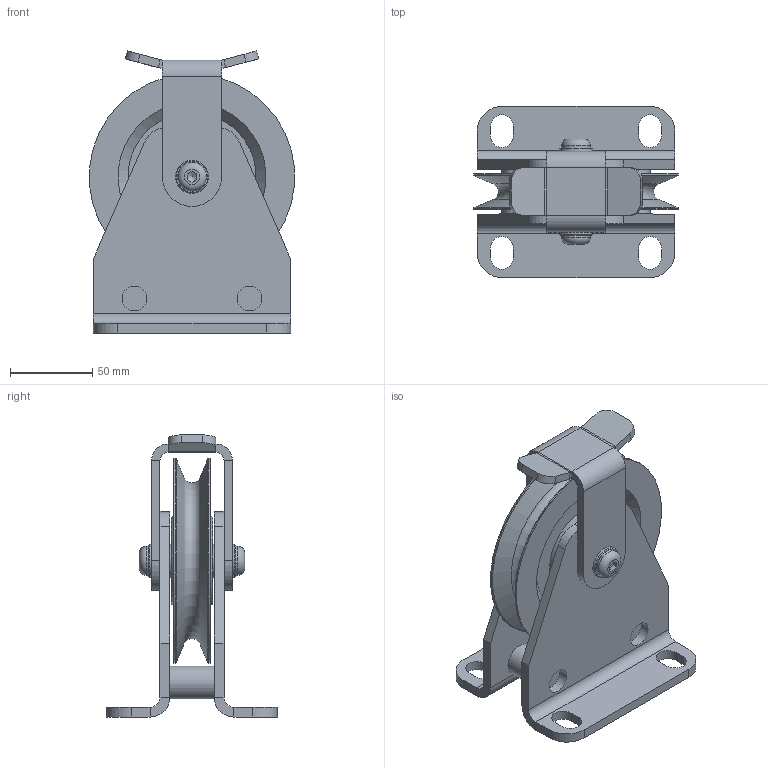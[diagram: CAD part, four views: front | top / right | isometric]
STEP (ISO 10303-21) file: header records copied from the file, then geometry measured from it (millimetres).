
FILE_DESCRIPTION(/* description */ ('Seilrollenbock Seilniederhalter ø125 Stahl Kugellager komplett'),/* implementation_level */ '2;1');
FILE_NAME(/* name */ 'Z:\Workspace\03 Seilrollen\1.406 K Seilrollenbock Seilniederhalter Kugellager\1.406.04 K Seilrollenbock Seilniederhalter ø125 Stahl Kugellager\1.406.04 K Seilrollenbock Seilniederhalter ø125 Stahl Kugellager komplett.stp',/* time_stamp */ '2021-10-06T08:37:03+02:00',/* author */ ('cad-user'),/* organization */ (''),/* preprocessor_version */ 'ST-DEVELOPER v18',/* originating_system */ 'Autodesk Inventor 2020',/* authorisation */ '');
FILE_SCHEMA (('AUTOMOTIVE_DESIGN { 1 0 10303 214 3 1 1 }'));
Length unit declared in the file: millimetre
Products named in the file (16): 1.406.04 K Seilrollenbock Seilniederhalter ø125 Stahl Kugellager 
komplett; 1.405.04.01 Seilrollenbock Schweißteil; 1.405.04.01 Blech; 1.405.04.01 Distanzachse; 1.402.04 Seilrolle ø125 Kugellager komplett; 1.402.04 Seilrolle ø125 Kugellager; DIN625 - 6004-2RS - P63; din625_-_6004-2rs_-_p63_0_05; din625_-_6004-2rs_-_p63_0_04; din625_-_6004-2rs_-_p63_0_03; din625_-_6004-2rs_-_p63_0_02; din625_-_6004-2rs_-_p63_0_01; 1.405.05.02 Achse; DIN 125-1 - B 10,5; 1.406.04.03 Seilniederhalter ø125; ISO 7380 - M10 x 25
Assembly tree (20 placements, depth 4):
  1.406.04 K Seilrollenbock Seilniederhalter ø125 Stahl Kugellager 
komplett
    1.405.04.01 Seilrollenbock Schweißteil
      1.405.04.01 Blech  x2
      1.405.04.01 Distanzachse  x2
    1.402.04 Seilrolle ø125 Kugellager komplett
      1.402.04 Seilrolle ø125 Kugellager
      DIN625 - 6004-2RS - P63  x2
        din625_-_6004-2rs_-_p63_0_05
        din625_-_6004-2rs_-_p63_0_04
        din625_-_6004-2rs_-_p63_0_03
        din625_-_6004-2rs_-_p63_0_02
        din625_-_6004-2rs_-_p63_0_01
    1.405.05.02 Achse
    DIN 125-1 - B 10,5  x2
    1.406.04.03 Seilniederhalter ø125
    ISO 7380 - M10 x 25  x2
Bounding box: 124.54 x 104 x 171.52 mm (x, y, z)
Volume: 399147.7 mm3; surface area: 162707.4 mm2
Topology: 21 solids, 21 shells, 276 faces, 708 edges, 486 vertices
Faces by surface type: plane 124, cylinder 89, torus 35, sphere 16, cone 12
Full cylindrical faces by diameter (mm): 10 x2, 10.106 x1, 10.4 x2, 10.5 x2, 12.6 x2, 15 x4, 17.5 x2, 20 x7, 24.4 x8, 26.6 x4, 35.4 x4, 36 x1, 39 x8, 42 x4, 55 x2, 125 x2
Entity records: 6464 total; most frequent: CARTESIAN_POINT 1488, DIRECTION 1022, ORIENTED_EDGE 844, AXIS2_PLACEMENT_3D 429, EDGE_CURVE 422, VERTEX_POINT 298, EDGE_LOOP 230, CIRCLE 219
